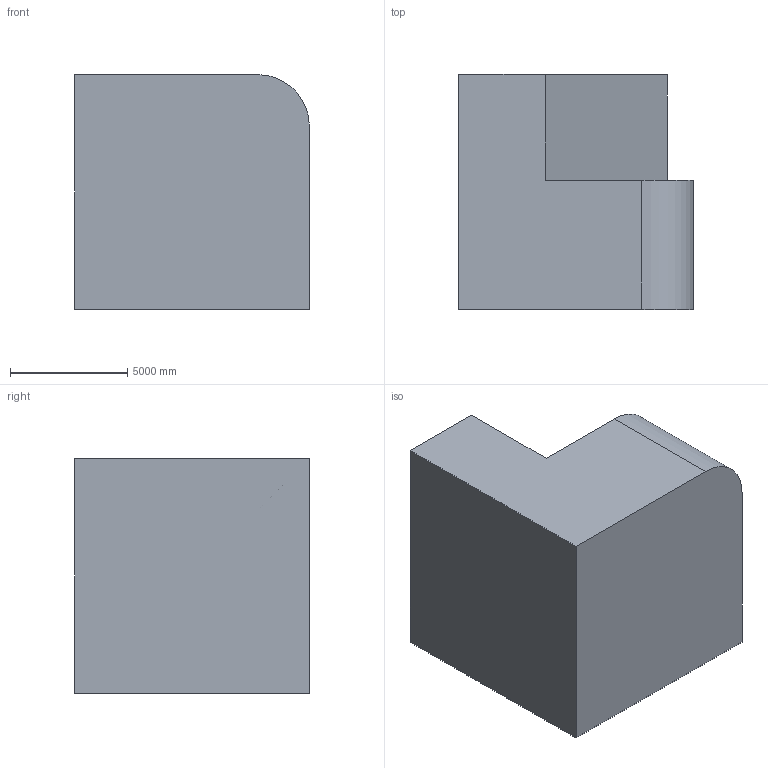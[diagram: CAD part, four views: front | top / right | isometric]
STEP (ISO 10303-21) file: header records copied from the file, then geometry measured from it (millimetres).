
FILE_DESCRIPTION (( 'STEP AP203' ), '1' );
FILE_NAME ('4.STEP', '2022-07-28T13:23:03', ( 'user' ), ( '' ), 'SwSTEP 2.0', 'SolidWorks 2021', '' );
FILE_SCHEMA (( 'CONFIG_CONTROL_DESIGN' ));
Length unit declared in the file: centimetre
Products named in the file (1): 4
Bounding box: 10000 x 10000 x 10000 mm (x, y, z)
Volume: 827159822407.1 mm3; surface area: 565046617.3 mm2
Topology: 1 solids, 1 shells, 9 faces, 21 edges, 14 vertices
Faces by surface type: plane 8, cylinder 1
Entity records: 334 total; most frequent: CARTESIAN_POINT 45, DIRECTION 43, ORIENTED_EDGE 42, EDGE_CURVE 21, VECTOR 19, LINE 19, VERTEX_POINT 14, AXIS2_PLACEMENT_3D 12
